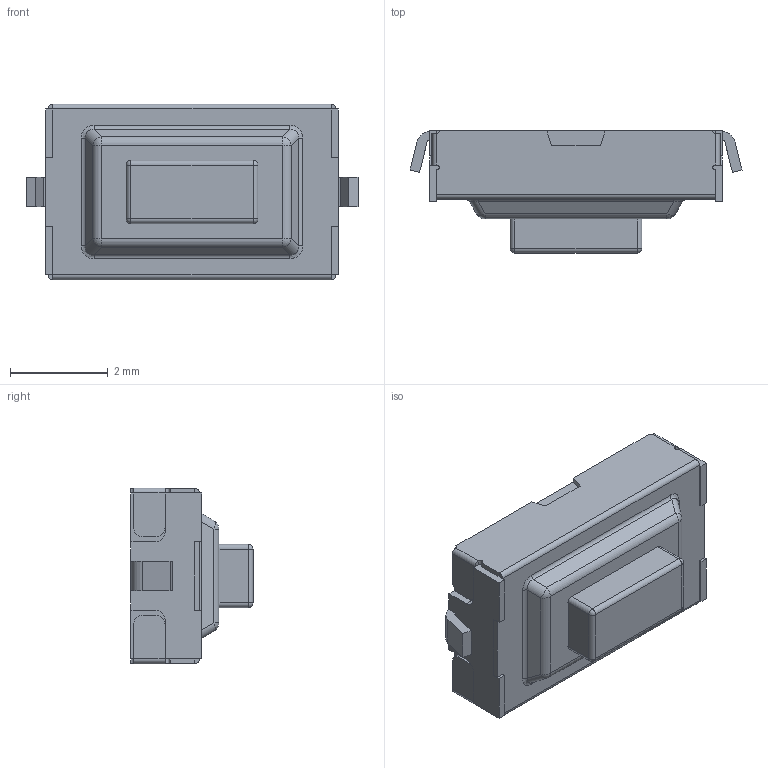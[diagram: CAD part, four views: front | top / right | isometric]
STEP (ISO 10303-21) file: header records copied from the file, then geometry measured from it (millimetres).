
FILE_DESCRIPTION((''),'2;1');
FILE_NAME('JQA3860-B0253-BEG-1-105_ASM','2026-07-02T15:57:50',('Admin'),(''),'CREO PARAMETRIC BY PTC INC, 2019224','CREO PARAMETRIC BY PTC INC, 2019224','');
FILE_SCHEMA(('AUTOMOTIVE_DESIGN { 1 0 10303 214 1 1 1 1 }'));
Length unit declared in the file: millimetre
Products named in the file (3): JQA3860-B0253-BEG-1-105_02; JQA3860-B0253-BEG-1-105_04; JQA3860-B0253-BEG-1-105_ASM
Assembly tree (2 placements, depth 2):
  JQA3860-B0253-BEG-1-105_ASM
    JQA3860-B0253-BEG-1-105_02
    JQA3860-B0253-BEG-1-105_04
Bounding box: 6.8 x 2.5 x 3.6 mm (x, y, z)
Volume: 36.5 mm3; surface area: 154.3 mm2
Topology: 2 solids, 2 shells, 236 faces, 560 edges, 332 vertices
Faces by surface type: plane 132, cylinder 76, sphere 16, bspline 12
Entity records: 8714 total; most frequent: CARTESIAN_POINT 2040, DIRECTION 1142, ORIENTED_EDGE 1120, EDGE_CURVE 560, VECTOR 392, LINE 392, AXIS2_PLACEMENT_3D 375, VERTEX_POINT 332
